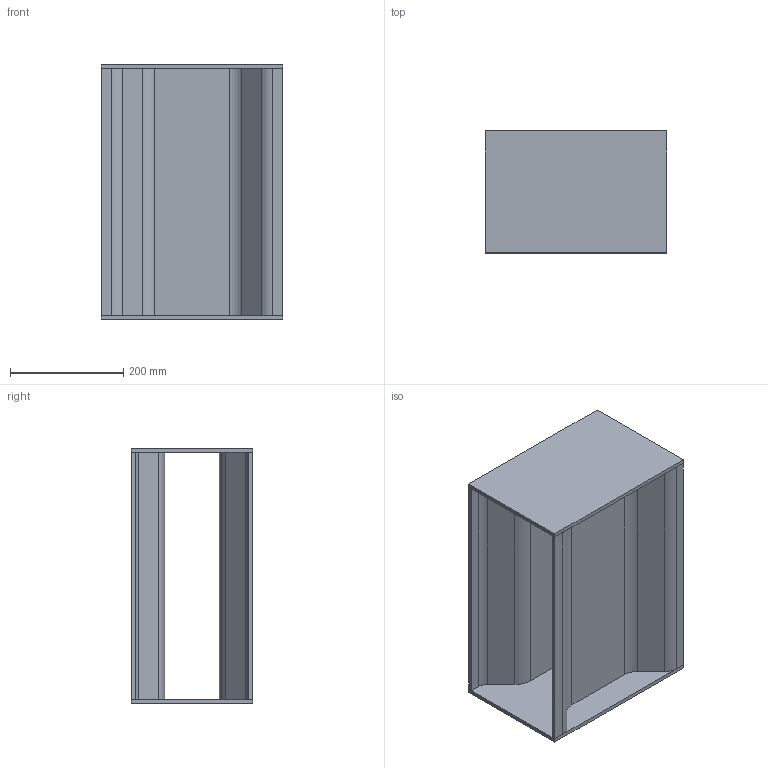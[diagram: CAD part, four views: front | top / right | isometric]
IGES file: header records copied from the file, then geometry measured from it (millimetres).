
Global section: file name: G:\.shortcut-targets-by-id\0B5jfT2xsKeIkUHJxUHhsaXBSM1U\POIAT products\Viralliset tuotetiedostot\Paletto\3D\Paletto Side Table\Paletto Side Table.igs; native system: Rhinoceros ( Feb  1 2023 ); preprocessor: Trout Lake IGES 012 Feb  1 2023; date: 230405.072703; units: millimetre
Bounding box: 320 x 215 x 450 mm (x, y, z)
Surface area: 936717.2 mm2 (no closed solid volume)
Topology: 0 solids, 0 shells, 56 faces, 288 edges, 288 vertices
Faces by surface type: bspline 56
